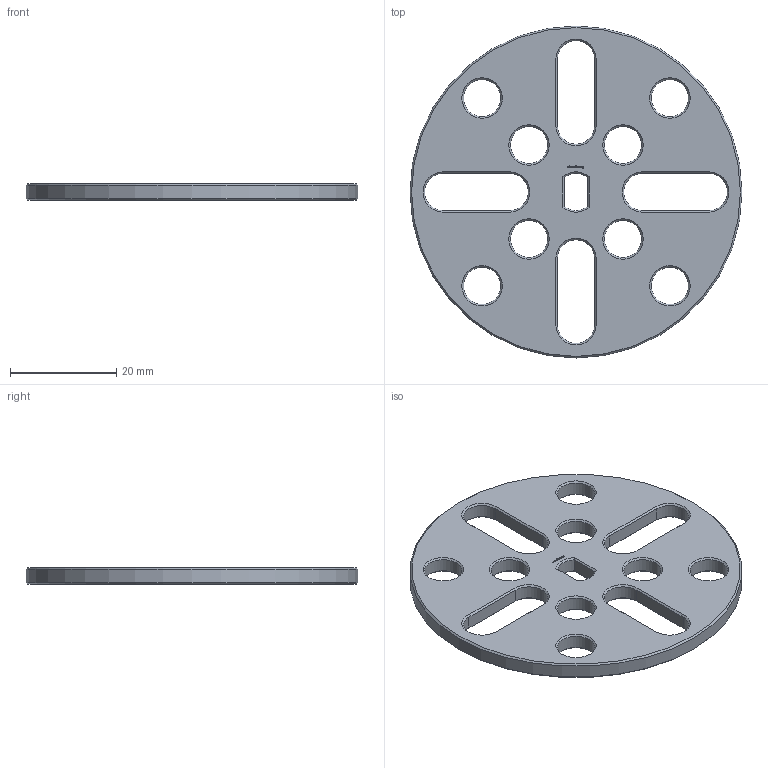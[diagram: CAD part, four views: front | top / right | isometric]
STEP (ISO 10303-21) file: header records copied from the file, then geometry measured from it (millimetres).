
FILE_DESCRIPTION(/* description */ (''),/* implementation_level */ '2;1');
FILE_NAME(/* name */ '/Users/paulokiefe/Desktop/STEMFIE/Fasteners/Washers/Fixed/Washer WSR FXD BU0.25x5.00 - SPN-WSR-0017 v1.step',/* time_stamp */ '2020-09-27T23:18:01+02:00',/* author */ (''),/* organization */ (''),/* preprocessor_version */ 'ST-DEVELOPER v18.1',/* originating_system */ 'Autodesk Translation Framework v9.3.0.1241',/* authorisation */ '');
FILE_SCHEMA (('AUTOMOTIVE_DESIGN { 1 0 10303 214 3 1 1 }'));
Length unit declared in the file: millimetre
Products named in the file (1): Washer WSR FXD BU0.25x5.00 - SPN-WSR-0017
Bounding box: 62.5 x 62.5 x 3.12 mm (x, y, z)
Volume: 6908 mm3; surface area: 6068.9 mm2
Topology: 1 solids, 1 shells, 333 faces, 899 edges, 580 vertices
Faces by surface type: plane 276, cone 38, cylinder 19
Full cylindrical faces by diameter (mm): 7 x8, 62.5 x1
Entity records: 10318 total; most frequent: CARTESIAN_POINT 1837, ORIENTED_EDGE 1798, DIRECTION 1635, EDGE_CURVE 899, LINE 815, VECTOR 815, VERTEX_POINT 580, AXIS2_PLACEMENT_3D 410
